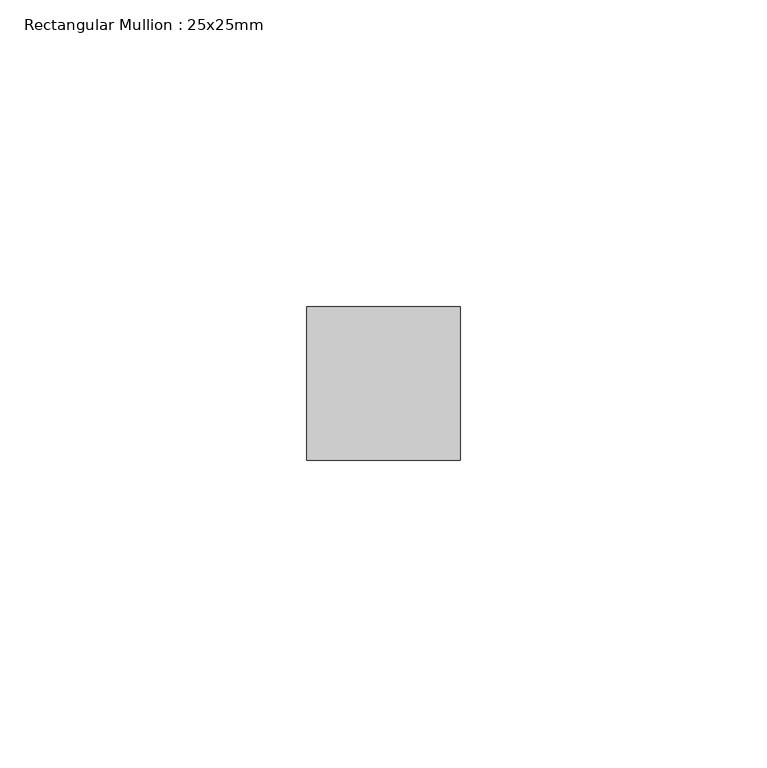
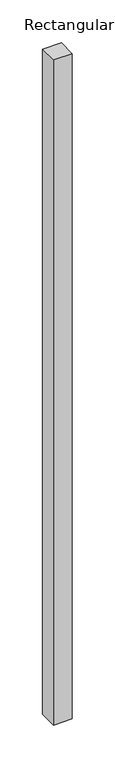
"""IFC4 building model written with IfcOpenShell, lengths in millimetres: member geometry, Rectangular Mullion : 25x25mm."""

from ifc_helpers import new_model, si_unit, frame, origin, place, context, project, spatial, polyline, outline, extrude, source, transform, mapped, element, save


def rectangular_mullion_25x25mm_b5c8ab77(model_context):
    return source(origin(), model_context, "Body", "SweptSolid", [
        extrude(outline(polyline([(12.5, 0.5), (12.5, -24.5), (-12.5, -24.5), (-12.5, 0.5), (12.5, 0.5)])), frame((0.0, 0.0, -945.0), z_axis=(0.0, 0.0, 1.0), x_axis=(1.0, 0.0, 0.0)), (0.0, 0.0, 1.0), 945.0),
    ])


if __name__ == "__main__":
    model = new_model("IFC4")
    model_context = context("Model", 3, world=origin())
    ifc_project = project(units=[si_unit("LENGTHUNIT", "METRE", prefix="MILLI")], contexts=[model_context])
    site = spatial("IfcSite", under=ifc_project)
    building = spatial("IfcBuilding", under=site)
    placement = place(None, origin())
    rectangular_mullion_25x25mm_shape = rectangular_mullion_25x25mm_b5c8ab77(model_context)
    element("IfcMember", 1, ObjectType="Rectangular Mullion : 25x25mm", at=placement, inside=building, context=model_context, shape_type="MappedRepresentation", body=[
        mapped(rectangular_mullion_25x25mm_shape, transform((0.0, 0.0, 0.0), x_axis=(1.0, 0.0, 0.0), y_axis=(0.0, 1.0, 0.0), z_axis=(0.0, 0.0, 1.0))),
    ])
    save(model, "model.ifc")
